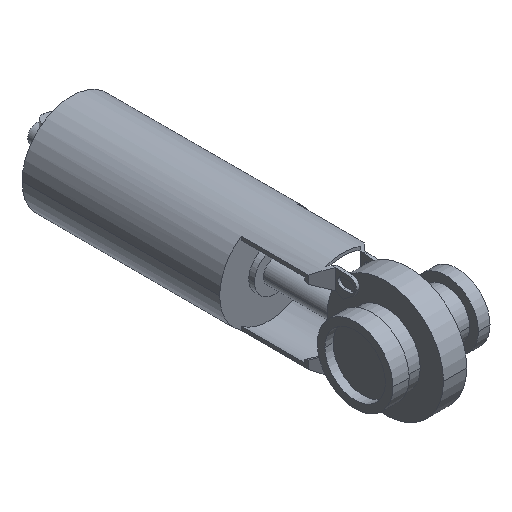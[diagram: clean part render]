
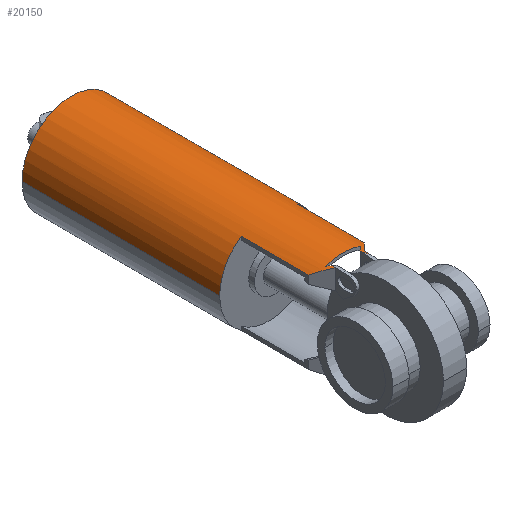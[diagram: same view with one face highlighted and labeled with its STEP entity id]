
A CAD part, isometric view. The second image highlights one B-rep face of the part: STEP entity #20150.
In plain terms, the highlighted cylindrical face has radius 42.5 mm (diameter 85 mm), a partial arc.
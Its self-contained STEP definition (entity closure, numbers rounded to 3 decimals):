
#18630=CARTESIAN_POINT('',(-73.686,122.246,0.));
#18640=DIRECTION('',(0.,1.,0.));
#18650=DIRECTION('',(1.,0.,0.));
#18660=AXIS2_PLACEMENT_3D('',#18630,#18640,#18650);
#18670=CYLINDRICAL_SURFACE('',#18660,42.5);
#18680=CARTESIAN_POINT('',(-31.186,122.246,0.));
#18690=DIRECTION('',(0.,1.,0.));
#18700=VECTOR('',#18690,1.);
#18710=LINE('',#18680,#18700);
#18720=CARTESIAN_POINT('',(-31.186,119.246,0.));
#18730=VERTEX_POINT('',#18720);
#18740=CARTESIAN_POINT('',(-31.186,289.246,0.));
#18750=VERTEX_POINT('',#18740);
#18760=EDGE_CURVE('',#18730,#18750,#18710,.T.);
#18770=ORIENTED_EDGE('',*,*,#18760,.T.);
#18780=CARTESIAN_POINT('',(-73.686,119.246,0.));
#18790=DIRECTION('',(0.,-1.,0.));
#18800=DIRECTION('',(0.,0.,1.));
#18810=AXIS2_PLACEMENT_3D('',#18780,#18790,#18800);
#18820=CIRCLE('',#18810,42.5);
#18830=CARTESIAN_POINT('',(-49.686,119.246,
35.075));
#18840=VERTEX_POINT('',#18830);
#18850=EDGE_CURVE('',#18730,#18840,#18820,.T.);
#18860=ORIENTED_EDGE('',*,*,#18850,.F.);
#18870=CARTESIAN_POINT('',(-49.686,316.107,
35.075));
#18880=DIRECTION('',(0.,-1.,0.));
#18890=VECTOR('',#18880,1.);
#18900=LINE('',#18870,#18890);
#18910=CARTESIAN_POINT('',(-49.686,61.252,
35.075));
#18920=VERTEX_POINT('',#18910);
#18930=EDGE_CURVE('',#18840,#18920,#18900,.T.);
#18940=ORIENTED_EDGE('',*,*,#18930,.F.);
#18950=CARTESIAN_POINT('',(-73.686,37.252,0.));
#18960=DIRECTION('',(-0.707,0.707,0.));
#18970=DIRECTION('',(-0.707,-0.707,-0.));
#18980=AXIS2_PLACEMENT_3D('',#18950,#18960,#18970);
#18990=ELLIPSE('',#18980,60.104,42.5);
#19000=CARTESIAN_POINT('',(-61.186,49.752,
40.62));
#19010=VERTEX_POINT('',#19000);
#19020=EDGE_CURVE('',#19010,#18920,#18990,.T.);
#19030=ORIENTED_EDGE('',*,*,#19020,.T.);
#19040=CARTESIAN_POINT('',(-61.186,316.107,
40.62));
#19050=DIRECTION('',(0.,-1.,0.));
#19060=VECTOR('',#19050,1.);
#19070=LINE('',#19040,#19060);
#19080=CARTESIAN_POINT('',(-61.186,43.297,
40.62));
#19090=VERTEX_POINT('',#19080);
#19100=EDGE_CURVE('',#19010,#19090,#19070,.T.);
#19110=ORIENTED_EDGE('',*,*,#19100,.F.);
#19120=CARTESIAN_POINT('',(-73.686,-313.222,0.));
#19130=DIRECTION('',(0.,-0.113,0.994));
#19140=DIRECTION('',(0.,0.994,0.113));
#19150=AXIS2_PLACEMENT_3D('',#19120,#19130,#19140);
#19160=ELLIPSE('',#19150,375.431,42.5);
#19170=CARTESIAN_POINT('',(-63.039,47.9,
41.145));
#19180=VERTEX_POINT('',#19170);
#19190=EDGE_CURVE('',#19090,#19180,#19160,.T.);
#19200=ORIENTED_EDGE('',*,*,#19190,.F.);
#19210=CARTESIAN_POINT('',(-73.686,37.252,0.));
#19220=DIRECTION('',(0.707,-0.707,0.));
#19230=DIRECTION('',(0.707,0.707,0.));
#19240=AXIS2_PLACEMENT_3D('',#19210,#19220,#19230);
#19250=ELLIPSE('',#19240,60.104,42.5);
#19260=CARTESIAN_POINT('',(-63.686,47.252,
41.307));
#19270=VERTEX_POINT('',#19260);
#19280=EDGE_CURVE('',#19180,#19270,#19250,.T.);
#19290=ORIENTED_EDGE('',*,*,#19280,.F.);
#19300=CARTESIAN_POINT('',(-63.686,316.107,
41.307));
#19310=DIRECTION('',(0.,-1.,0.));
#19320=VECTOR('',#19310,1.);
#19330=LINE('',#19300,#19320);
#19340=CARTESIAN_POINT('',(-63.686,50.788,
41.307));
#19350=VERTEX_POINT('',#19340);
#19360=EDGE_CURVE('',#19350,#19270,#19330,.T.);
#19370=ORIENTED_EDGE('',*,*,#19360,.T.);
#19380=CARTESIAN_POINT('',(-73.686,40.788,0.));
#19390=DIRECTION('',(-0.707,0.707,0.));
#19400=DIRECTION('',(-0.707,-0.707,-0.));
#19410=AXIS2_PLACEMENT_3D('',#19380,#19390,#19400);
#19420=ELLIPSE('',#19410,60.104,42.5);
#19430=CARTESIAN_POINT('',(-58.629,55.846,
39.743));
#19440=VERTEX_POINT('',#19430);
#19450=EDGE_CURVE('',#19350,#19440,#19420,.T.);
#19460=ORIENTED_EDGE('',*,*,#19450,.F.);
#19470=CARTESIAN_POINT('',(-73.686,55.846,0.));
#19480=DIRECTION('',(0.,-1.,0.));
#19490=DIRECTION('',(0.,0.,1.));
#19500=AXIS2_PLACEMENT_3D('',#19470,#19480,#19490);
#19510=CIRCLE('',#19500,42.5);
#19520=CARTESIAN_POINT('',(-88.744,55.846,
39.743));
#19530=VERTEX_POINT('',#19520);
#19540=EDGE_CURVE('',#19440,#19530,#19510,.T.);
#19550=ORIENTED_EDGE('',*,*,#19540,.F.);
#19560=CARTESIAN_POINT('',(-73.686,40.788,0.));
#19570=DIRECTION('',(0.707,0.707,0.));
#19580=DIRECTION('',(-0.707,0.707,0.));
#19590=AXIS2_PLACEMENT_3D('',#19560,#19570,#19580);
#19600=ELLIPSE('',#19590,60.104,42.5);
#19610=CARTESIAN_POINT('',(-86.186,53.288,
40.62));
#19620=VERTEX_POINT('',#19610);
#19630=EDGE_CURVE('',#19530,#19620,#19600,.T.);
#19640=ORIENTED_EDGE('',*,*,#19630,.F.);
#19650=CARTESIAN_POINT('',(-86.186,316.107,
40.62));
#19660=DIRECTION('',(0.,-1.,0.));
#19670=VECTOR('',#19660,1.);
#19680=LINE('',#19650,#19670);
#19690=CARTESIAN_POINT('',(-86.186,49.752,
40.62));
#19700=VERTEX_POINT('',#19690);
#19710=EDGE_CURVE('',#19620,#19700,#19680,.T.);
#19720=ORIENTED_EDGE('',*,*,#19710,.F.);
#19730=CARTESIAN_POINT('',(-73.686,37.252,0.));
#19740=DIRECTION('',(-0.707,-0.707,-0.));
#19750=DIRECTION('',(0.707,-0.707,0.));
#19760=AXIS2_PLACEMENT_3D('',#19730,#19740,#19750);
#19770=ELLIPSE('',#19760,60.104,42.5);
#19780=CARTESIAN_POINT('',(-97.686,61.252,
35.075));
#19790=VERTEX_POINT('',#19780);
#19800=EDGE_CURVE('',#19700,#19790,#19770,.T.);
#19810=ORIENTED_EDGE('',*,*,#19800,.F.);
#19820=CARTESIAN_POINT('',(-97.686,316.107,
35.075));
#19830=DIRECTION('',(0.,-1.,0.));
#19840=VECTOR('',#19830,1.);
#19850=LINE('',#19820,#19840);
#19860=CARTESIAN_POINT('',(-97.686,119.246,
35.075));
#19870=VERTEX_POINT('',#19860);
#19880=EDGE_CURVE('',#19870,#19790,#19850,.T.);
#19890=ORIENTED_EDGE('',*,*,#19880,.T.);
#19900=CARTESIAN_POINT('',(-116.186,119.246,
0.));
#19910=VERTEX_POINT('',#19900);
#19920=EDGE_CURVE('',#19870,#19910,#18820,.T.);
#19930=ORIENTED_EDGE('',*,*,#19920,.F.);
#19940=CARTESIAN_POINT('',(-116.186,122.246,
0.));
#19950=DIRECTION('',(0.,1.,0.));
#19960=VECTOR('',#19950,1.);
#19970=LINE('',#19940,#19960);
#19980=CARTESIAN_POINT('',(-116.186,289.246,
0.));
#19990=VERTEX_POINT('',#19980);
#20000=EDGE_CURVE('',#19910,#19990,#19970,.T.);
#20010=ORIENTED_EDGE('',*,*,#20000,.F.);
#20020=CARTESIAN_POINT('',(-73.686,289.246,0.));
#20030=DIRECTION('',(0.,-1.,0.));
#20040=DIRECTION('',(0.,0.,-1.));
#20050=AXIS2_PLACEMENT_3D('',#20020,#20030,#20040);
#20060=CIRCLE('',#20050,42.5);
#20070=CARTESIAN_POINT('',(-73.686,289.246,42.5));
#20080=VERTEX_POINT('',#20070);
#20090=EDGE_CURVE('',#20080,#19990,#20060,.T.);
#20100=ORIENTED_EDGE('',*,*,#20090,.T.);
#20110=EDGE_CURVE('',#18750,#20080,#20060,.T.);
#20120=ORIENTED_EDGE('',*,*,#20110,.T.);
#20130=EDGE_LOOP('',(#20120,#20100,#20010,#19930,#19890,#19810,#19720,
#19640,#19550,#19460,#19370,#19290,#19200,#19110,#19030,#18940,#18860,
#18770));
#20140=FACE_OUTER_BOUND('',#20130,.T.);
#20150=ADVANCED_FACE('',(#20140),#18670,.T.);
